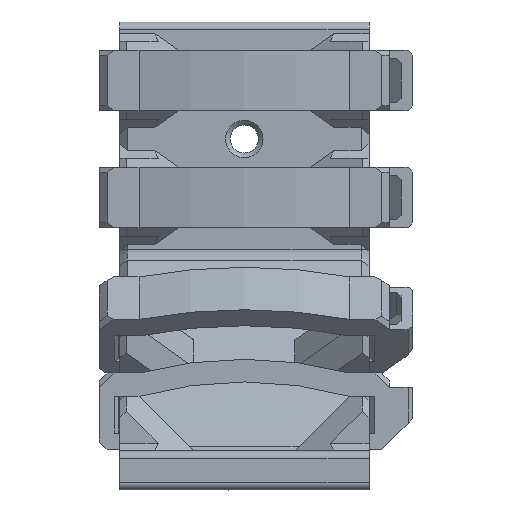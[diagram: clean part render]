
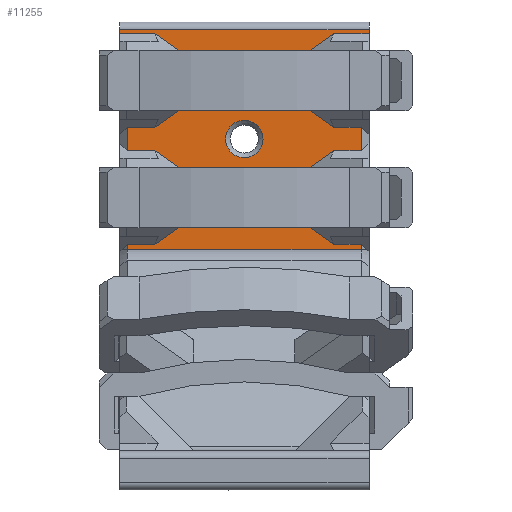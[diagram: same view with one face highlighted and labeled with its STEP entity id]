
A CAD part, left-side view. The second image highlights one B-rep face of the part: STEP entity #11255.
In plain terms, the highlighted planar face has unit normal (-1, 0, 0).
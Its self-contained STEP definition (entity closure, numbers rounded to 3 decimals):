
#70=FACE_BOUND('',#1285,.T.);
#294=CIRCLE('',#11934,2.4);
#667=FACE_OUTER_BOUND('',#1284,.T.);
#1284=EDGE_LOOP('',(#8596,#8597,#8598,#8599,#8600,#8601,#8602,#8603,#8604,
#8605,#8606,#8607,#8608,#8609,#8610,#8611,#8612,#8613,#8614,#8615,#8616,
#8617,#8618,#8619,#8620,#8621,#8622,#8623));
#1285=EDGE_LOOP('',(#8624));
#2336=LINE('',#16960,#3752);
#2337=LINE('',#16962,#3753);
#2338=LINE('',#16964,#3754);
#2339=LINE('',#16966,#3755);
#2340=LINE('',#16968,#3756);
#2341=LINE('',#16970,#3757);
#2342=LINE('',#16972,#3758);
#2343=LINE('',#16974,#3759);
#2344=LINE('',#16976,#3760);
#2345=LINE('',#16978,#3761);
#2346=LINE('',#16980,#3762);
#2347=LINE('',#16982,#3763);
#2348=LINE('',#16984,#3764);
#2349=LINE('',#16986,#3765);
#2350=LINE('',#16988,#3766);
#2351=LINE('',#16990,#3767);
#2352=LINE('',#16992,#3768);
#2353=LINE('',#16994,#3769);
#2354=LINE('',#16996,#3770);
#2355=LINE('',#16998,#3771);
#2356=LINE('',#17000,#3772);
#2357=LINE('',#17002,#3773);
#2358=LINE('',#17004,#3774);
#2359=LINE('',#17006,#3775);
#2360=LINE('',#17008,#3776);
#2361=LINE('',#17010,#3777);
#2362=LINE('',#17012,#3778);
#2363=LINE('',#17013,#3779);
#3752=VECTOR('',#13680,10.);
#3753=VECTOR('',#13681,10.);
#3754=VECTOR('',#13682,10.);
#3755=VECTOR('',#13683,10.);
#3756=VECTOR('',#13684,10.);
#3757=VECTOR('',#13685,10.);
#3758=VECTOR('',#13686,10.);
#3759=VECTOR('',#13687,10.);
#3760=VECTOR('',#13688,10.);
#3761=VECTOR('',#13689,10.);
#3762=VECTOR('',#13690,10.);
#3763=VECTOR('',#13691,10.);
#3764=VECTOR('',#13692,10.);
#3765=VECTOR('',#13693,10.);
#3766=VECTOR('',#13694,10.);
#3767=VECTOR('',#13695,10.);
#3768=VECTOR('',#13696,10.);
#3769=VECTOR('',#13697,10.);
#3770=VECTOR('',#13698,10.);
#3771=VECTOR('',#13699,10.);
#3772=VECTOR('',#13700,10.);
#3773=VECTOR('',#13701,10.);
#3774=VECTOR('',#13702,10.);
#3775=VECTOR('',#13703,10.);
#3776=VECTOR('',#13704,10.);
#3777=VECTOR('',#13705,10.);
#3778=VECTOR('',#13706,10.);
#3779=VECTOR('',#13707,10.);
#4982=VERTEX_POINT('',#16954);
#4983=VERTEX_POINT('',#16958);
#4984=VERTEX_POINT('',#16959);
#4985=VERTEX_POINT('',#16961);
#4986=VERTEX_POINT('',#16963);
#4987=VERTEX_POINT('',#16965);
#4988=VERTEX_POINT('',#16967);
#4989=VERTEX_POINT('',#16969);
#4990=VERTEX_POINT('',#16971);
#4991=VERTEX_POINT('',#16973);
#4992=VERTEX_POINT('',#16975);
#4993=VERTEX_POINT('',#16977);
#4994=VERTEX_POINT('',#16979);
#4995=VERTEX_POINT('',#16981);
#4996=VERTEX_POINT('',#16983);
#4997=VERTEX_POINT('',#16985);
#4998=VERTEX_POINT('',#16987);
#4999=VERTEX_POINT('',#16989);
#5000=VERTEX_POINT('',#16991);
#5001=VERTEX_POINT('',#16993);
#5002=VERTEX_POINT('',#16995);
#5003=VERTEX_POINT('',#16997);
#5004=VERTEX_POINT('',#16999);
#5005=VERTEX_POINT('',#17001);
#5006=VERTEX_POINT('',#17003);
#5007=VERTEX_POINT('',#17005);
#5008=VERTEX_POINT('',#17007);
#5009=VERTEX_POINT('',#17009);
#5010=VERTEX_POINT('',#17011);
#6272=EDGE_CURVE('',#4982,#4982,#294,.T.);
#6274=EDGE_CURVE('',#4983,#4984,#2336,.T.);
#6275=EDGE_CURVE('',#4983,#4985,#2337,.T.);
#6276=EDGE_CURVE('',#4985,#4986,#2338,.T.);
#6277=EDGE_CURVE('',#4986,#4987,#2339,.T.);
#6278=EDGE_CURVE('',#4987,#4988,#2340,.T.);
#6279=EDGE_CURVE('',#4988,#4989,#2341,.T.);
#6280=EDGE_CURVE('',#4989,#4990,#2342,.T.);
#6281=EDGE_CURVE('',#4990,#4991,#2343,.T.);
#6282=EDGE_CURVE('',#4991,#4992,#2344,.T.);
#6283=EDGE_CURVE('',#4992,#4993,#2345,.T.);
#6284=EDGE_CURVE('',#4993,#4994,#2346,.T.);
#6285=EDGE_CURVE('',#4994,#4995,#2347,.T.);
#6286=EDGE_CURVE('',#4995,#4996,#2348,.T.);
#6287=EDGE_CURVE('',#4996,#4997,#2349,.T.);
#6288=EDGE_CURVE('',#4998,#4997,#2350,.T.);
#6289=EDGE_CURVE('',#4998,#4999,#2351,.T.);
#6290=EDGE_CURVE('',#4999,#5000,#2352,.T.);
#6291=EDGE_CURVE('',#5000,#5001,#2353,.T.);
#6292=EDGE_CURVE('',#5001,#5002,#2354,.T.);
#6293=EDGE_CURVE('',#5002,#5003,#2355,.T.);
#6294=EDGE_CURVE('',#5004,#5003,#2356,.T.);
#6295=EDGE_CURVE('',#5005,#5004,#2357,.T.);
#6296=EDGE_CURVE('',#5006,#5005,#2358,.T.);
#6297=EDGE_CURVE('',#5006,#5007,#2359,.T.);
#6298=EDGE_CURVE('',#5007,#5008,#2360,.T.);
#6299=EDGE_CURVE('',#5008,#5009,#2361,.T.);
#6300=EDGE_CURVE('',#5009,#5010,#2362,.T.);
#6301=EDGE_CURVE('',#5010,#4984,#2363,.T.);
#8596=ORIENTED_EDGE('',*,*,#6274,.F.);
#8597=ORIENTED_EDGE('',*,*,#6275,.T.);
#8598=ORIENTED_EDGE('',*,*,#6276,.T.);
#8599=ORIENTED_EDGE('',*,*,#6277,.T.);
#8600=ORIENTED_EDGE('',*,*,#6278,.T.);
#8601=ORIENTED_EDGE('',*,*,#6279,.T.);
#8602=ORIENTED_EDGE('',*,*,#6280,.T.);
#8603=ORIENTED_EDGE('',*,*,#6281,.T.);
#8604=ORIENTED_EDGE('',*,*,#6282,.T.);
#8605=ORIENTED_EDGE('',*,*,#6283,.T.);
#8606=ORIENTED_EDGE('',*,*,#6284,.T.);
#8607=ORIENTED_EDGE('',*,*,#6285,.T.);
#8608=ORIENTED_EDGE('',*,*,#6286,.T.);
#8609=ORIENTED_EDGE('',*,*,#6287,.T.);
#8610=ORIENTED_EDGE('',*,*,#6288,.F.);
#8611=ORIENTED_EDGE('',*,*,#6289,.T.);
#8612=ORIENTED_EDGE('',*,*,#6290,.T.);
#8613=ORIENTED_EDGE('',*,*,#6291,.T.);
#8614=ORIENTED_EDGE('',*,*,#6292,.T.);
#8615=ORIENTED_EDGE('',*,*,#6293,.T.);
#8616=ORIENTED_EDGE('',*,*,#6294,.F.);
#8617=ORIENTED_EDGE('',*,*,#6295,.F.);
#8618=ORIENTED_EDGE('',*,*,#6296,.F.);
#8619=ORIENTED_EDGE('',*,*,#6297,.T.);
#8620=ORIENTED_EDGE('',*,*,#6298,.T.);
#8621=ORIENTED_EDGE('',*,*,#6299,.T.);
#8622=ORIENTED_EDGE('',*,*,#6300,.T.);
#8623=ORIENTED_EDGE('',*,*,#6301,.T.);
#8624=ORIENTED_EDGE('',*,*,#6272,.F.);
#10768=PLANE('',#11935);
#11255=ADVANCED_FACE('',(#667,#70),#10768,.T.);
#11934=AXIS2_PLACEMENT_3D('',#16955,#13675,#13676);
#11935=AXIS2_PLACEMENT_3D('',#16957,#13678,#13679);
#13675=DIRECTION('center_axis',(-1.,0.,0.));
#13676=DIRECTION('ref_axis',(0.,1.,0.));
#13678=DIRECTION('center_axis',(-1.,0.,0.));
#13679=DIRECTION('ref_axis',(0.,0.,
1.));
#13680=DIRECTION('',(0.,0.,-1.));
#13681=DIRECTION('',(0.,1.,0.));
#13682=DIRECTION('',(0.,0.816,0.577));
#13683=DIRECTION('',(0.,0.,1.));
#13684=DIRECTION('',(0.,-0.816,0.577));
#13685=DIRECTION('',(0.,-1.,0.));
#13686=DIRECTION('',(0.,0.,1.));
#13687=DIRECTION('',(0.,1.,0.));
#13688=DIRECTION('',(0.,0.,-1.));
#13689=DIRECTION('',(0.,-1.,0.));
#13690=DIRECTION('',(0.,-0.816,-0.577));
#13691=DIRECTION('',(0.,0.,-1.));
#13692=DIRECTION('',(0.,0.816,-0.577));
#13693=DIRECTION('',(0.,1.,0.));
#13694=DIRECTION('',(0.,0.,1.));
#13695=DIRECTION('',(0.,-1.,0.));
#13696=DIRECTION('',(0.,-0.816,-0.577));
#13697=DIRECTION('',(0.,0.,-1.));
#13698=DIRECTION('',(0.,0.816,-0.577));
#13699=DIRECTION('',(0.,1.,0.));
#13700=DIRECTION('',(0.,0.,1.));
#13701=DIRECTION('',(0.,1.,0.));
#13702=DIRECTION('',(0.,0.,-1.));
#13703=DIRECTION('',(0.,1.,0.));
#13704=DIRECTION('',(0.,0.816,0.577));
#13705=DIRECTION('',(0.,0.,1.));
#13706=DIRECTION('',(0.,-0.816,0.577));
#13707=DIRECTION('',(0.,-1.,0.));
#16954=CARTESIAN_POINT('',(95.,-102.4,45.));
#16955=CARTESIAN_POINT('Origin',(95.,-100.,45.));
#16957=CARTESIAN_POINT('Origin',(95.,-116.,30.));
#16958=CARTESIAN_POINT('',(95.,-115.,46.5));
#16959=CARTESIAN_POINT('',(95.,-115.,43.5));
#16960=CARTESIAN_POINT('',(95.,-115.,30.));
#16961=CARTESIAN_POINT('',(95.,-111.45,46.5));
#16962=CARTESIAN_POINT('',(95.,-112.,46.5));
#16963=CARTESIAN_POINT('',(95.,-106.5,50.));
#16964=CARTESIAN_POINT('',(95.,-115.678,43.51));
#16965=CARTESIAN_POINT('',(95.,-106.5,55.));
#16966=CARTESIAN_POINT('',(95.,-106.5,41.25));
#16967=CARTESIAN_POINT('',(95.,-111.45,58.5));
#16968=CARTESIAN_POINT('',(95.,-105.072,53.99));
#16969=CARTESIAN_POINT('',(95.,-116.,58.5));
#16970=CARTESIAN_POINT('',(95.,-112.,58.5));
#16971=CARTESIAN_POINT('',(95.,-116.,59.));
#16972=CARTESIAN_POINT('',(95.,-116.,30.));
#16973=CARTESIAN_POINT('',(95.,-84.,59.));
#16974=CARTESIAN_POINT('',(95.,-116.,59.));
#16975=CARTESIAN_POINT('',(95.,-84.,58.5));
#16976=CARTESIAN_POINT('',(95.,-84.,30.));
#16977=CARTESIAN_POINT('',(95.,-88.55,58.5));
#16978=CARTESIAN_POINT('',(95.,-112.,58.5));
#16979=CARTESIAN_POINT('',(95.,-93.5,55.));
#16980=CARTESIAN_POINT('',(95.,-105.595,46.448));
#16981=CARTESIAN_POINT('',(95.,-93.5,50.));
#16982=CARTESIAN_POINT('',(95.,-93.5,41.25));
#16983=CARTESIAN_POINT('',(95.,-88.55,46.5));
#16984=CARTESIAN_POINT('',(95.,-94.988,51.052));
#16985=CARTESIAN_POINT('',(95.,-85.,46.5));
#16986=CARTESIAN_POINT('',(95.,-112.,46.5));
#16987=CARTESIAN_POINT('',(95.,-85.,43.5));
#16988=CARTESIAN_POINT('',(95.,-85.,30.));
#16989=CARTESIAN_POINT('',(95.,-88.55,43.5));
#16990=CARTESIAN_POINT('',(95.,-112.,43.5));
#16991=CARTESIAN_POINT('',(95.,-93.5,40.));
#16992=CARTESIAN_POINT('',(95.,-102.059,33.948));
#16993=CARTESIAN_POINT('',(95.,-93.5,35.));
#16994=CARTESIAN_POINT('',(95.,-93.5,33.75));
#16995=CARTESIAN_POINT('',(95.,-88.55,31.5));
#16996=CARTESIAN_POINT('',(95.,-98.524,38.552));
#16997=CARTESIAN_POINT('',(95.,-85.,31.5));
#16998=CARTESIAN_POINT('',(95.,-112.,31.5));
#16999=CARTESIAN_POINT('',(95.,-85.,30.828));
#17000=CARTESIAN_POINT('',(95.,-85.,30.));
#17001=CARTESIAN_POINT('',(95.,-115.,30.828));
#17002=CARTESIAN_POINT('',(95.,-116.,30.828));
#17003=CARTESIAN_POINT('',(95.,-115.,31.5));
#17004=CARTESIAN_POINT('',(95.,-115.,30.));
#17005=CARTESIAN_POINT('',(95.,-111.45,31.5));
#17006=CARTESIAN_POINT('',(95.,-112.,31.5));
#17007=CARTESIAN_POINT('',(95.,-106.5,35.));
#17008=CARTESIAN_POINT('',(95.,-112.143,31.01));
#17009=CARTESIAN_POINT('',(95.,-106.5,40.));
#17010=CARTESIAN_POINT('',(95.,-106.5,33.75));
#17011=CARTESIAN_POINT('',(95.,-111.45,43.5));
#17012=CARTESIAN_POINT('',(95.,-108.607,41.49));
#17013=CARTESIAN_POINT('',(95.,-112.,43.5));
